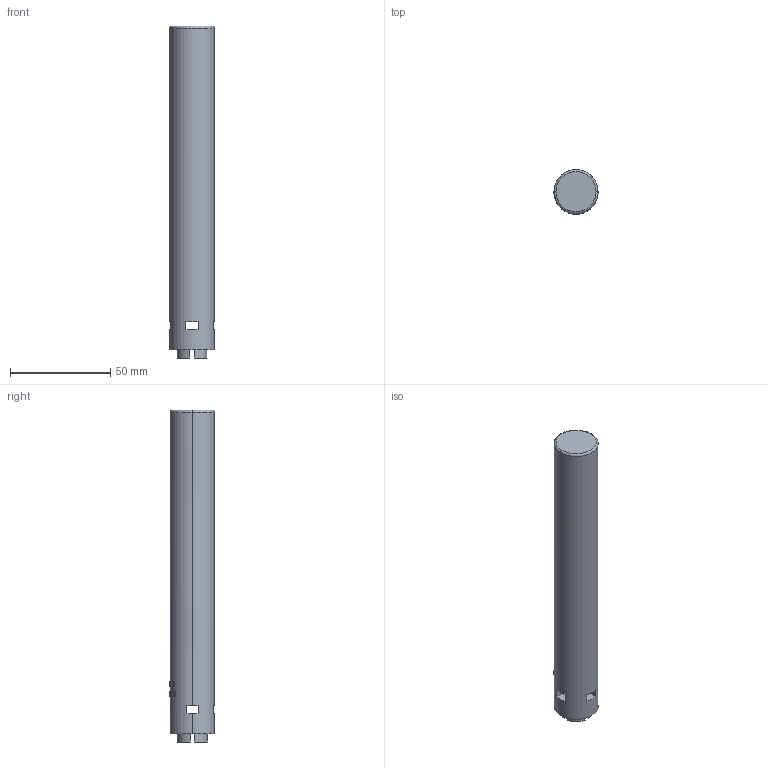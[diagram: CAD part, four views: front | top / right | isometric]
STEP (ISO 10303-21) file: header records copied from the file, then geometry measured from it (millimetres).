
FILE_DESCRIPTION((''),'2;1');
FILE_NAME('KWS-1002','2025-12-29T08:54:15',('28740194'),(''),'CREO PARAMETRIC BY PTC INC, 2024063','CREO PARAMETRIC BY PTC INC, 2024063','');
FILE_SCHEMA(('CONFIG_CONTROL_DESIGN'));
Length unit declared in the file: millimetre
Products named in the file (1): KWS-1002
Bounding box: 22 x 22.14 x 165.5 mm (x, y, z)
Volume: 60938.4 mm3; surface area: 12942 mm2
Topology: 1 solids, 1 shells, 400 faces, 1129 edges, 752 vertices
Faces by surface type: bspline 339, cylinder 31, plane 28, torus 2
Entity records: 17275 total; most frequent: CARTESIAN_POINT 9256, ORIENTED_EDGE 2258, EDGE_CURVE 1129, B_SPLINE_CURVE_WITH_KNOTS 774, VERTEX_POINT 752, DIRECTION 635, EDGE_LOOP 427, FACE_OUTER_BOUND 400
